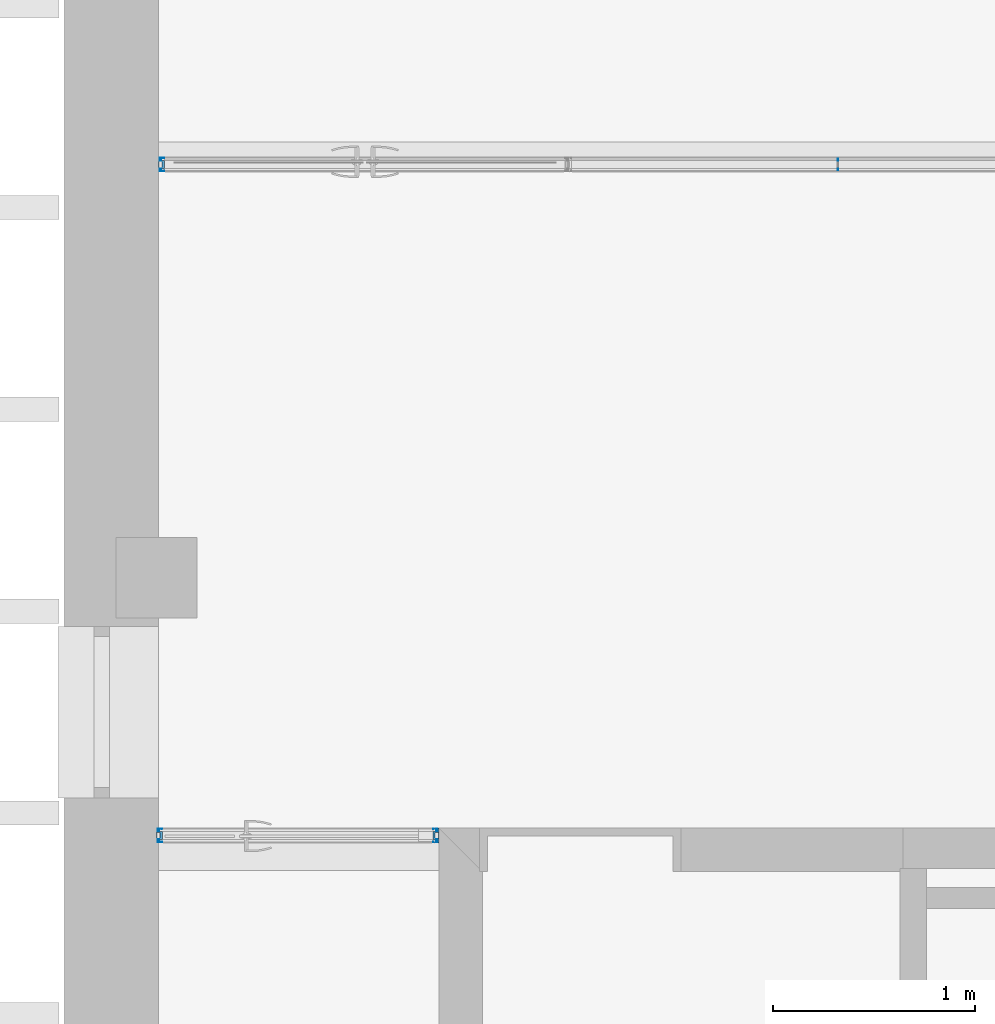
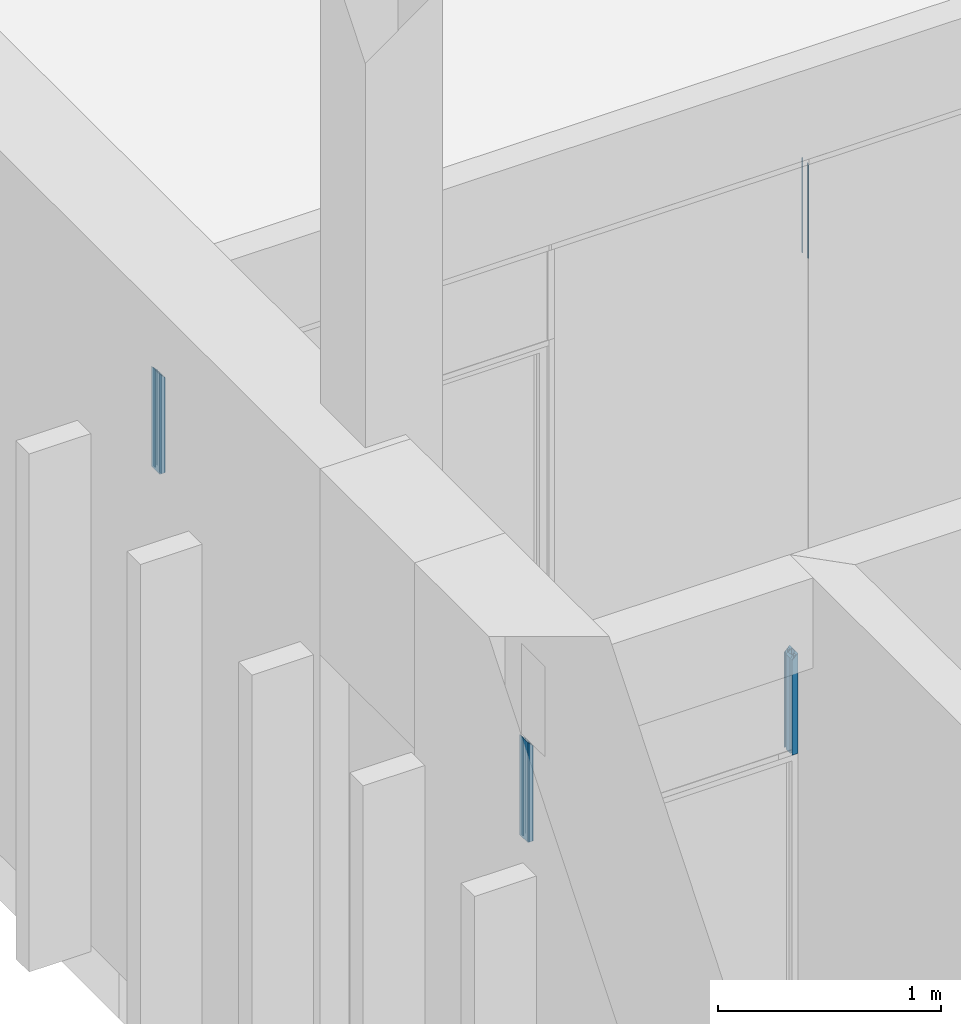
# One storey, part 30 of 89: 7 building element parts, 6 elements without a shape of their own.
"""IFC2X3 building model written with IfcOpenShell, lengths in millimetres."""

from ifc_helpers import new_model, entity, si_unit, converted_unit, derived_unit, money_unit, direction, frame, origin_with_axes, place, context, subcontext, project, spatial, faceted_brep, source, transform, mapped, material, type_object, element, aggregate, save


model = new_model("IFC2X3")

# Units and contexts
model_context = context("Model", 3, precision=0.01, world=origin_with_axes(), true_north=direction((0.0, 1.0)))
body_context = subcontext(model_context, "Body", "Model", "MODEL_VIEW")
ifc_project = project(units=[si_unit("LENGTHUNIT", "METRE", prefix="MILLI"), si_unit("AREAUNIT", "SQUARE_METRE"), si_unit("VOLUMEUNIT", "CUBIC_METRE"), converted_unit("PLANEANGLEUNIT", "DEGREE", entity("IfcPlaneAngleMeasure", 0.0174532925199), si_unit("PLANEANGLEUNIT", "RADIAN"), dimensions=[0, 0, 0, 0, 0, 0, 0]), si_unit("SOLIDANGLEUNIT", "STERADIAN"), money_unit("EUR"), converted_unit("TIMEUNIT", "Year", entity("IfcTimeMeasure", 31556926.0), si_unit("TIMEUNIT", "SECOND"), dimensions=[0, 0, 1, 0, 0, 0, 0]), si_unit("MASSUNIT", "GRAM", prefix="KILO"), si_unit("THERMODYNAMICTEMPERATUREUNIT", "DEGREE_CELSIUS"), si_unit("LUMINOUSINTENSITYUNIT", "LUMEN"), si_unit("ENERGYUNIT", "JOULE", prefix="MEGA"), derived_unit("THERMALCONDUCTANCEUNIT", [(si_unit("POWERUNIT", "WATT"), 1), (si_unit("LENGTHUNIT", "METRE"), -1), (si_unit("THERMODYNAMICTEMPERATUREUNIT", "KELVIN"), -1)]), derived_unit("SPECIFICHEATCAPACITYUNIT", [(si_unit("ENERGYUNIT", "JOULE"), 1), (si_unit("MASSUNIT", "GRAM", prefix="KILO"), -1), (si_unit("THERMODYNAMICTEMPERATUREUNIT", "KELVIN"), -1)]), derived_unit("MASSDENSITYUNIT", [(si_unit("MASSUNIT", "GRAM", prefix="KILO"), 1), (si_unit("VOLUMEUNIT", "CUBIC_METRE"), -1)])], contexts=[model_context])

# Site, building, storey
site_placement = place(None, origin_with_axes())
site = spatial("IfcSite", under=ifc_project, at=site_placement, Name="Puškini 31, Narva", CompositionType="ELEMENT")
building_placement = place(site_placement, origin_with_axes())
building = spatial("IfcBuilding", under=site, at=building_placement, Name="Narva Riigigümnaasium", CompositionType="ELEMENT")
storey_placement = place(building_placement, frame((0.0, 0.0, -3300.0), z_axis=(0.0, 0.0, 1.0), x_axis=(1.0, 0.0, 0.0)))
storey = spatial("IfcBuildingStorey", under=building, at=storey_placement, Name="1.korrus -3.3", CompositionType="ELEMENT", Elevation=-3300.0)

# Curtain wall, members, building element parts
curtain_wall_type = type_object("IfcCurtainWallType", Name="Curtain Wall Type", PredefinedType="NOTDEFINED")
curtain_wall_1_placement = place(storey_placement, frame((40014.000008, 243997.000057, -9.155864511e-06), z_axis=(0.0, 0.0, 1.0), x_axis=(1.0, 0.0, 0.0)))
curtain_wall_1 = element("IfcCurtainWall", 1, at=curtain_wall_1_placement, inside=storey, type_object=curtain_wall_type, Name="G-SKLF-09")
member_type_1 = type_object("IfcMemberType", Name="3 x 19", PredefinedType="MULLION")
member_1_placement = place(curtain_wall_1_placement, frame((763.999992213, 0.0, 2400.00000716), z_axis=(0.0, 0.0, 1.0), x_axis=(-1.0, 0.0, 0.0)))
member_1 = element("IfcMember", 2, at=member_1_placement, type_object=member_type_1, Name="G-SKLF-09-raam", ObjectType="MULLION")
ifc_material_1 = material(Name="Klaas")
shared_shape_1 = source(origin_with_axes(), body_context, "Body", "Brep", [
    faceted_brep([(1.4999861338, 20.0064497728, 0.0), (1.4999861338, 20.0064497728, 519.999980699), (-1.5000138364, 20.0064497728, 519.999980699), (-1.5000138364, 20.0064497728, 0.0), (1.4999861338, 29.0064496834, 0.0), (1.4999861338, 29.0064496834, 519.999980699), (-1.5000138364, 29.0064496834, 519.999980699), (-1.5000138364, 29.0064496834, 0.0)], [[[0, 1, 2, 3]], [[4, 5, 1, 0]], [[1, 5, 6, 2]], [[3, 2, 6, 7]], [[0, 3, 7, 4]], [[7, 6, 5, 4]]]),
    faceted_brep([(1.4999861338, -19.993550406, 0.0), (1.4999861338, -19.993550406, 519.999980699), (1.4999861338, -28.9935503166, 519.999980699), (1.4999861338, -28.9935503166, 0.0), (-1.5000138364, -19.993550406, 0.0), (-1.5000138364, -19.993550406, 519.999980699), (-1.5000138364, -28.9935503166, 519.999980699), (-1.5000138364, -28.9935503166, 0.0)], [[[0, 1, 2, 3]], [[4, 5, 1, 0]], [[1, 5, 6, 2]], [[3, 2, 6, 7]], [[0, 3, 7, 4]], [[7, 6, 5, 4]]]),
])
building_element_part_1_placement = place(member_1_placement, origin_with_axes())
building_element_part_1 = element("IfcBuildingElementPart", 3, at=building_element_part_1_placement, material=ifc_material_1, Name="Klaas", context=body_context, shape_type="MappedRepresentation", body=[
    mapped(shared_shape_1, transform((0.0, 0.0, 0.0), x_axis=(-1.0, 0.0, 0.0), y_axis=(0.0, -1.0, 0.0), z_axis=(0.0, 0.0, 1.0))),
])
aggregate(member_1, [building_element_part_1])
member_type_2 = type_object("IfcMemberType", Name="30 x 37", PredefinedType="MULLION")
member_2_placement = place(curtain_wall_1_placement, frame((-2604.00000779, 0.0, 2400.00000716), z_axis=(0.0, 0.0, 1.0), x_axis=(-1.0, 0.0, 0.0)))
member_2 = element("IfcMember", 4, at=member_2_placement, type_object=member_type_2, Name="G-SKLF-09-raam", ObjectType="MULLION")
aggregate(curtain_wall_1, [member_2, member_1])
ifc_material_2 = material(Name="Klaasvill")
shared_shape_2 = source(origin_with_axes(), body_context, "Body", "Brep", [
    faceted_brep([(7.49999990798, 20.000000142, 0.0), (13.8499999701, 20.000000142, 0.0), (13.8499999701, 20.000000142, 536.15000003), (7.49999990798, 20.000000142, 542.500000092), (7.49999990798, 34.0161444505, 0.0), (13.8499999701, 34.0161444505, 0.0), (13.8499999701, 34.0161444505, 536.15000003), (7.49999990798, 34.0161444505, 542.500000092)], [[[0, 1, 2, 3]], [[0, 4, 5, 1]], [[1, 5, 6, 2]], [[3, 2, 6, 7]], [[4, 0, 3, 7]], [[5, 4, 7, 6]]]),
    faceted_brep([(24.987414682, 34.0161444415, 0.0), (25.004489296, 32.0307503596, 0.0), (25.004489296, 32.0307503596, 524.995510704), (24.987414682, 34.0161444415, 525.012585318), (28.5126239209, 34.0161444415, 0.0), (28.7655837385, 33.0385325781, 0.0), (28.4955493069, 32.0307503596, 0.0), (27.75780152, 31.2930025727, 0.0), (26.7500193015, 31.0229681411, 0.0), (25.742237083, 31.2930025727, 0.0), (25.742237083, 31.2930025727, 524.257762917), (26.7500193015, 31.0229681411, 523.249980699), (27.75780152, 31.2930025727, 522.24219848), (28.4955493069, 32.0307503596, 521.504450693), (28.7655837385, 33.0385325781, 521.234416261), (28.5126239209, 34.0161444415, 521.487376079)], [[[0, 1, 2, 3]], [[0, 4, 5, 6, 7, 8, 9, 1]], [[1, 9, 10, 2]], [[3, 2, 10, 11, 12, 13, 14, 15]], [[4, 0, 3, 15]], [[5, 4, 15, 14]], [[6, 5, 14, 13]], [[7, 6, 13, 12]], [[8, 7, 12, 11]], [[9, 8, 11, 10]]]),
    faceted_brep([(7.49999990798, -19.9999997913, 0.0), (7.49999990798, -34.0161445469, 0.0), (7.49999990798, -34.0161445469, 542.500000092), (7.49999990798, -19.9999997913, 542.500000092), (13.8499999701, -19.9999997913, 0.0), (13.8499999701, -34.0161445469, 0.0), (13.8499999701, -34.0161445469, 536.15000003), (13.8499999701, -19.9999997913, 536.15000003)], [[[0, 1, 2, 3]], [[0, 4, 5, 1]], [[1, 5, 6, 2]], [[3, 2, 6, 7]], [[4, 0, 3, 7]], [[5, 4, 7, 6]]]),
    faceted_brep([(25.004489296, -32.0307503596, 0.0), (24.987414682, -34.0161444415, 0.0), (24.987414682, -34.0161444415, 525.012585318), (25.004489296, -32.0307503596, 524.995510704), (25.742237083, -31.2930025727, 0.0), (26.7500193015, -31.0229681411, 0.0), (27.75780152, -31.2930025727, 0.0), (28.4955493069, -32.0307503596, 0.0), (28.7655837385, -33.0385325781, 0.0), (28.5126239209, -34.0161444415, 0.0), (28.5126239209, -34.0161444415, 521.487376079), (28.7655837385, -33.0385325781, 521.234416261), (28.4955493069, -32.0307503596, 521.504450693), (27.75780152, -31.2930025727, 522.24219848), (26.7500193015, -31.0229681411, 523.249980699), (25.742237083, -31.2930025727, 524.257762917)], [[[0, 1, 2, 3]], [[0, 4, 5, 6, 7, 8, 9, 1]], [[1, 9, 10, 2]], [[3, 2, 10, 11, 12, 13, 14, 15]], [[4, 0, 3, 15]], [[5, 4, 15, 14]], [[6, 5, 14, 13]], [[7, 6, 13, 12]], [[8, 7, 12, 11]], [[9, 8, 11, 10]]]),
])
building_element_part_2_placement = place(member_2_placement, origin_with_axes())
building_element_part_2 = element("IfcBuildingElementPart", 5, at=building_element_part_2_placement, material=ifc_material_2, Name="Klaasvill", context=body_context, shape_type="MappedRepresentation", body=[
    mapped(shared_shape_2, transform((0.0, 0.0, 0.0), x_axis=(-1.0, 0.0, 0.0), y_axis=(0.0, -1.0, 0.0), z_axis=(0.0, 0.0, 1.0))),
])
ifc_material_3 = material(Name="Teras RAL7012")
shared_shape_3 = source(origin_with_axes(), body_context, "Body", "Brep", [
    faceted_brep([(0.0, -17.0000000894, 0.0), (29.5999996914, -17.0000000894, 0.0), (29.5999996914, -17.0000000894, 520.400000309), (0.0, -17.0000000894, 550.0), (0.0, 17.0000000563, 0.0), (29.5999996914, 17.0000000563, 0.0), (1.9999999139, 15.0000001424, 0.0), (1.9999999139, -15.0000001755, 0.0), (18.7999996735, -15.0000001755, 0.0), (18.7999996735, 15.0000001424, 0.0), (29.5999996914, 17.0000000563, 520.400000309), (0.0, 17.0000000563, 550.0), (1.9999999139, 15.0000001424, 548.000000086), (18.7999996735, 15.0000001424, 531.200000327), (18.7999996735, -15.0000001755, 531.200000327), (1.9999999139, -15.0000001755, 548.000000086)], [[[0, 1, 2, 3]], [[0, 4, 5, 1], [6, 7, 8, 9]], [[1, 5, 10, 2]], [[3, 2, 10, 11], [12, 13, 14, 15]], [[4, 0, 3, 11]], [[5, 4, 11, 10]], [[7, 6, 12, 15]], [[8, 7, 15, 14]], [[9, 8, 14, 13]], [[6, 9, 13, 12]]]),
    faceted_brep([(0.0, 17.0, 0.0), (29.5999996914, 17.0000000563, 0.0), (29.5999996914, 17.0000000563, 520.400000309), (0.0, 17.0, 550.0), (0.0, 37.0, 0.0), (30.0000193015, 37.0, 0.0), (30.0000193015, 34.0161444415, 0.0), (28.5126239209, 34.0161444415, 0.0), (24.987414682, 34.0161444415, 0.0), (13.8499999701, 34.0161444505, 0.0), (7.49999999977, 34.0161444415, 0.0), (7.49999999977, 20.0, 0.0), (13.8499999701, 20.000000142, 0.0), (30.0000193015, 20.0, 0.0), (30.0000193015, 17.0, 0.0), (30.0000193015, 17.0, 519.999980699), (30.0000193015, 20.0, 519.999980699), (13.8499999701, 20.000000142, 536.15000003), (7.49999999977, 20.0, 542.5), (7.49999999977, 34.0161444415, 542.5), (13.8499999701, 34.0161444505, 536.15000003), (24.987414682, 34.0161444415, 525.012585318), (28.5126239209, 34.0161444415, 521.487376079), (30.0000193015, 34.0161444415, 519.999980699), (30.0000193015, 37.0, 519.999980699), (0.0, 37.0, 550.0)], [[[0, 1, 2, 3]], [[0, 4, 5, 6, 7, 8, 9, 10, 11, 12, 13, 14, 1]], [[1, 14, 15, 2]], [[3, 2, 15, 16, 17, 18, 19, 20, 21, 22, 23, 24, 25]], [[4, 0, 3, 25]], [[5, 4, 25, 24]], [[6, 5, 24, 23]], [[7, 6, 23, 22]], [[8, 7, 22, 21]], [[9, 8, 21, 20]], [[10, 9, 20, 19]], [[11, 10, 19, 18]], [[12, 11, 18, 17]], [[13, 12, 17, 16]], [[14, 13, 16, 15]]]),
    faceted_brep([(0.0, -17.0, 0.0), (0.0, -37.0, 0.0), (0.0, -37.0, 550.0), (0.0, -17.0, 550.0), (29.5999996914, -17.0000000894, 0.0), (30.0000193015, -17.0, 0.0), (30.0000193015, -20.0, 0.0), (13.8499999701, -19.9999997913, 0.0), (7.49999999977, -20.0, 0.0), (7.49999999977, -34.0161444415, 0.0), (13.8499999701, -34.0161445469, 0.0), (24.987414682, -34.0161444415, 0.0), (28.5126239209, -34.0161444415, 0.0), (30.0000193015, -34.0161444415, 0.0), (30.0000193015, -37.0, 0.0), (30.0000193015, -37.0, 519.999980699), (30.0000193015, -34.0161444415, 519.999980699), (28.5126239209, -34.0161444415, 521.487376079), (24.987414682, -34.0161444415, 525.012585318), (13.8499999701, -34.0161445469, 536.15000003), (7.49999999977, -34.0161444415, 542.5), (7.49999999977, -20.0, 542.5), (13.8499999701, -19.9999997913, 536.15000003), (30.0000193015, -20.0, 519.999980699), (30.0000193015, -17.0, 519.999980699), (29.5999996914, -17.0000000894, 520.400000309)], [[[0, 1, 2, 3]], [[0, 4, 5, 6, 7, 8, 9, 10, 11, 12, 13, 14, 1]], [[1, 14, 15, 2]], [[3, 2, 15, 16, 17, 18, 19, 20, 21, 22, 23, 24, 25]], [[4, 0, 3, 25]], [[5, 4, 25, 24]], [[6, 5, 24, 23]], [[7, 6, 23, 22]], [[8, 7, 22, 21]], [[9, 8, 21, 20]], [[10, 9, 20, 19]], [[11, 10, 19, 18]], [[12, 11, 18, 17]], [[13, 12, 17, 16]], [[14, 13, 16, 15]]]),
])
building_element_part_3_placement = place(member_2_placement, origin_with_axes())
building_element_part_3 = element("IfcBuildingElementPart", 6, at=building_element_part_3_placement, material=ifc_material_3, Name="Teras RAL7012", context=body_context, shape_type="MappedRepresentation", body=[
    mapped(shared_shape_3, transform((0.0, 0.0, 0.0), x_axis=(-1.0, 0.0, 0.0), y_axis=(0.0, -1.0, 0.0), z_axis=(0.0, 0.0, 1.0))),
])
aggregate(member_2, [building_element_part_2, building_element_part_3])

curtain_wall_2_placement = place(storey_placement, frame((38300.0000003, 240678.000001, -3.3467437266e-05), z_axis=(0.0, 0.0, 1.0), x_axis=(1.0, 0.0, 0.0)))
curtain_wall_2 = element("IfcCurtainWall", 7, at=curtain_wall_2_placement, inside=storey, type_object=curtain_wall_type, Name="G-SKLF-56")
member_type_3 = type_object("IfcMemberType", Name="Boundary Frame 30 x 42", PredefinedType="MULLION")
member_3_placement = place(curtain_wall_2_placement, frame((500.0, 0.0, 2400.00003347), z_axis=(0.0, 0.0, 1.0), x_axis=(-1.0, 0.0, 0.0)))
member_3 = element("IfcMember", 8, at=member_3_placement, type_object=member_type_3, Name="SKLF-22-raam", ObjectType="MULLION")
shared_shape_4 = source(origin_with_axes(), body_context, "Body", "Brep", [
    faceted_brep([(-7.49999990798, 15.000000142, 0.0), (-7.49999990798, 15.000000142, 542.500000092), (-13.8499999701, 15.000000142, 536.15000003), (-13.8499999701, 15.000000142, 0.0), (-7.49999990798, 29.0161444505, 0.0), (-7.49999990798, 29.0161444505, 542.500000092), (-13.8499999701, 29.0161444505, 536.15000003), (-13.8499999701, 29.0161444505, 0.0)], [[[0, 1, 2, 3]], [[4, 5, 1, 0]], [[1, 5, 6, 2]], [[3, 2, 6, 7]], [[0, 3, 7, 4]], [[7, 6, 5, 4]]]),
    faceted_brep([(-24.987414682, 29.0161444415, 0.0), (-24.987414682, 29.0161444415, 525.012585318), (-25.004489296, 27.0307503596, 524.995510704), (-25.004489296, 27.0307503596, 0.0), (-28.5126239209, 29.0161444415, 0.0), (-28.5126239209, 29.0161444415, 521.487376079), (-28.7655837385, 28.0385325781, 521.234416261), (-28.4955493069, 27.0307503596, 521.504450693), (-27.75780152, 26.2930025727, 522.24219848), (-26.7500193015, 26.0229681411, 523.249980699), (-25.742237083, 26.2930025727, 524.257762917), (-25.742237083, 26.2930025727, 0.0), (-26.7500193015, 26.0229681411, 0.0), (-27.75780152, 26.2930025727, 0.0), (-28.4955493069, 27.0307503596, 0.0), (-28.7655837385, 28.0385325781, 0.0)], [[[0, 1, 2, 3]], [[4, 5, 1, 0]], [[1, 5, 6, 7, 8, 9, 10, 2]], [[3, 2, 10, 11]], [[0, 3, 11, 12, 13, 14, 15, 4]], [[15, 6, 5, 4]], [[14, 7, 6, 15]], [[13, 8, 7, 14]], [[12, 9, 8, 13]], [[11, 10, 9, 12]]]),
    faceted_brep([(-7.49999990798, -24.9999997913, 0.0), (-7.49999990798, -24.9999997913, 542.500000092), (-7.49999990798, -39.0161445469, 542.500000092), (-7.49999990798, -39.0161445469, 0.0), (-13.8499999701, -24.9999997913, 0.0), (-13.8499999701, -24.9999997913, 536.15000003), (-13.8499999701, -39.0161445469, 536.15000003), (-13.8499999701, -39.0161445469, 0.0)], [[[0, 1, 2, 3]], [[4, 5, 1, 0]], [[1, 5, 6, 2]], [[3, 2, 6, 7]], [[0, 3, 7, 4]], [[7, 6, 5, 4]]]),
    faceted_brep([(-25.004489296, -37.0307503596, 0.0), (-25.004489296, -37.0307503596, 524.995510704), (-24.987414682, -39.0161444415, 525.012585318), (-24.987414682, -39.0161444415, 0.0), (-25.742237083, -36.2930025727, 0.0), (-25.742237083, -36.2930025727, 524.257762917), (-26.7500193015, -36.0229681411, 523.249980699), (-27.75780152, -36.2930025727, 522.24219848), (-28.4955493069, -37.0307503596, 521.504450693), (-28.7655837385, -38.0385325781, 521.234416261), (-28.5126239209, -39.0161444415, 521.487376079), (-28.5126239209, -39.0161444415, 0.0), (-28.7655837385, -38.0385325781, 0.0), (-28.4955493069, -37.0307503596, 0.0), (-27.75780152, -36.2930025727, 0.0), (-26.7500193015, -36.0229681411, 0.0)], [[[0, 1, 2, 3]], [[4, 5, 1, 0]], [[1, 5, 6, 7, 8, 9, 10, 2]], [[3, 2, 10, 11]], [[0, 3, 11, 12, 13, 14, 15, 4]], [[15, 6, 5, 4]], [[14, 7, 6, 15]], [[13, 8, 7, 14]], [[12, 9, 8, 13]], [[11, 10, 9, 12]]]),
])
building_element_part_4_placement = place(member_3_placement, origin_with_axes())
building_element_part_4 = element("IfcBuildingElementPart", 9, at=building_element_part_4_placement, material=ifc_material_2, Name="Klaasvill", context=body_context, shape_type="MappedRepresentation", body=[
    mapped(shared_shape_4, transform((0.0, 0.0, 0.0), x_axis=(-1.0, 0.0, 0.0), y_axis=(0.0, -1.0, 0.0), z_axis=(0.0, 0.0, 1.0))),
])
shared_shape_5 = source(origin_with_axes(), body_context, "Body", "Brep", [
    faceted_brep([(0.0, -22.0000000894, 0.0), (0.0, -22.0000000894, 550.0), (-29.5999996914, -22.0000000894, 520.400000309), (-29.5999996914, -22.0000000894, 0.0), (0.0, 12.0000000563, 0.0), (0.0, 12.0000000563, 550.0), (-29.5999996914, 12.0000000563, 520.400000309), (-1.9999999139, 10.0000001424, 548.000000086), (-1.9999999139, -20.0000001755, 548.000000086), (-18.7999996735, -20.0000001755, 531.200000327), (-18.7999996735, 10.0000001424, 531.200000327), (-29.5999996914, 12.0000000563, 0.0), (-1.9999999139, 10.0000001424, 0.0), (-18.7999996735, 10.0000001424, 0.0), (-18.7999996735, -20.0000001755, 0.0), (-1.9999999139, -20.0000001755, 0.0)], [[[0, 1, 2, 3]], [[4, 5, 1, 0]], [[1, 5, 6, 2], [7, 8, 9, 10]], [[3, 2, 6, 11]], [[0, 3, 11, 4], [12, 13, 14, 15]], [[11, 6, 5, 4]], [[15, 8, 7, 12]], [[14, 9, 8, 15]], [[13, 10, 9, 14]], [[12, 7, 10, 13]]]),
    faceted_brep([(0.0, 12.0, 0.0), (0.0, 12.0, 550.0), (-29.5999996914, 12.0000000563, 520.400000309), (-29.5999996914, 12.0000000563, 0.0), (0.0, 32.0, 0.0), (0.0, 32.0, 550.0), (-30.0000193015, 32.0, 519.999980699), (-30.0000193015, 29.0161444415, 519.999980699), (-28.5126239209, 29.0161444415, 521.487376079), (-24.987414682, 29.0161444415, 525.012585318), (-13.8499999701, 29.0161444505, 536.15000003), (-7.49999999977, 29.0161444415, 542.5), (-7.49999999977, 15.0, 542.5), (-13.8499999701, 15.000000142, 536.15000003), (-30.0000193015, 15.0, 519.999980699), (-30.0000193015, 12.0, 519.999980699), (-30.0000193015, 12.0, 0.0), (-30.0000193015, 15.0, 0.0), (-13.8499999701, 15.000000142, 0.0), (-7.49999999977, 15.0, 0.0), (-7.49999999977, 29.0161444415, 0.0), (-13.8499999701, 29.0161444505, 0.0), (-24.987414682, 29.0161444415, 0.0), (-28.5126239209, 29.0161444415, 0.0), (-30.0000193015, 29.0161444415, 0.0), (-30.0000193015, 32.0, 0.0)], [[[0, 1, 2, 3]], [[4, 5, 1, 0]], [[1, 5, 6, 7, 8, 9, 10, 11, 12, 13, 14, 15, 2]], [[3, 2, 15, 16]], [[0, 3, 16, 17, 18, 19, 20, 21, 22, 23, 24, 25, 4]], [[25, 6, 5, 4]], [[24, 7, 6, 25]], [[23, 8, 7, 24]], [[22, 9, 8, 23]], [[21, 10, 9, 22]], [[20, 11, 10, 21]], [[19, 12, 11, 20]], [[18, 13, 12, 19]], [[17, 14, 13, 18]], [[16, 15, 14, 17]]]),
    faceted_brep([(0.0, -22.0, 0.0), (0.0, -22.0, 550.0), (0.0, -42.0, 550.0), (0.0, -42.0, 0.0), (-29.5999996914, -22.0000000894, 0.0), (-29.5999996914, -22.0000000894, 520.400000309), (-30.0000193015, -22.0, 519.999980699), (-30.0000193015, -25.0, 519.999980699), (-13.8499999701, -24.9999997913, 536.15000003), (-7.49999999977, -25.0, 542.5), (-7.49999999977, -39.0161444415, 542.5), (-13.8499999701, -39.0161445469, 536.15000003), (-24.987414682, -39.0161444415, 525.012585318), (-28.5126239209, -39.0161444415, 521.487376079), (-30.0000193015, -39.0161444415, 519.999980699), (-30.0000193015, -42.0, 519.999980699), (-30.0000193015, -42.0, 0.0), (-30.0000193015, -39.0161444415, 0.0), (-28.5126239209, -39.0161444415, 0.0), (-24.987414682, -39.0161444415, 0.0), (-13.8499999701, -39.0161445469, 0.0), (-7.49999999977, -39.0161444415, 0.0), (-7.49999999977, -25.0, 0.0), (-13.8499999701, -24.9999997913, 0.0), (-30.0000193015, -25.0, 0.0), (-30.0000193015, -22.0, 0.0)], [[[0, 1, 2, 3]], [[4, 5, 1, 0]], [[1, 5, 6, 7, 8, 9, 10, 11, 12, 13, 14, 15, 2]], [[3, 2, 15, 16]], [[0, 3, 16, 17, 18, 19, 20, 21, 22, 23, 24, 25, 4]], [[25, 6, 5, 4]], [[24, 7, 6, 25]], [[23, 8, 7, 24]], [[22, 9, 8, 23]], [[21, 10, 9, 22]], [[20, 11, 10, 21]], [[19, 12, 11, 20]], [[18, 13, 12, 19]], [[17, 14, 13, 18]], [[16, 15, 14, 17]]]),
])
building_element_part_5_placement = place(member_3_placement, origin_with_axes())
building_element_part_5 = element("IfcBuildingElementPart", 10, at=building_element_part_5_placement, material=ifc_material_3, Name="Teras RAL7012", context=body_context, shape_type="MappedRepresentation", body=[
    mapped(shared_shape_5, transform((0.0, 0.0, 0.0), x_axis=(-1.0, 0.0, 0.0), y_axis=(0.0, -1.0, 0.0), z_axis=(0.0, 0.0, 1.0))),
])
aggregate(member_3, [building_element_part_4, building_element_part_5])
member_4_placement = place(curtain_wall_2_placement, frame((-900.0, 0.0, 2400.00003347), z_axis=(0.0, 0.0, 1.0), x_axis=(-1.0, 0.0, 0.0)))
member_4 = element("IfcMember", 11, at=member_4_placement, type_object=member_type_3, Name="SKLF-25-raam", ObjectType="MULLION")
aggregate(curtain_wall_2, [member_3, member_4])
shared_shape_6 = source(origin_with_axes(), body_context, "Body", "Brep", [
    faceted_brep([(7.49999990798, 15.000000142, 0.0), (13.8499999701, 15.000000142, 0.0), (13.8499999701, 15.000000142, 536.15000003), (7.49999990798, 15.000000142, 542.500000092), (7.49999990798, 29.0161444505, 0.0), (13.8499999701, 29.0161444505, 0.0), (13.8499999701, 29.0161444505, 536.15000003), (7.49999990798, 29.0161444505, 542.500000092)], [[[0, 1, 2, 3]], [[0, 4, 5, 1]], [[1, 5, 6, 2]], [[3, 2, 6, 7]], [[4, 0, 3, 7]], [[5, 4, 7, 6]]]),
    faceted_brep([(24.987414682, 29.0161444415, 0.0), (25.004489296, 27.0307503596, 0.0), (25.004489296, 27.0307503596, 524.995510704), (24.987414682, 29.0161444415, 525.012585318), (28.5126239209, 29.0161444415, 0.0), (28.7655837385, 28.0385325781, 0.0), (28.4955493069, 27.0307503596, 0.0), (27.75780152, 26.2930025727, 0.0), (26.7500193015, 26.0229681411, 0.0), (25.742237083, 26.2930025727, 0.0), (25.742237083, 26.2930025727, 524.257762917), (26.7500193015, 26.0229681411, 523.249980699), (27.75780152, 26.2930025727, 522.24219848), (28.4955493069, 27.0307503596, 521.504450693), (28.7655837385, 28.0385325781, 521.234416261), (28.5126239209, 29.0161444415, 521.487376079)], [[[0, 1, 2, 3]], [[0, 4, 5, 6, 7, 8, 9, 1]], [[1, 9, 10, 2]], [[3, 2, 10, 11, 12, 13, 14, 15]], [[4, 0, 3, 15]], [[5, 4, 15, 14]], [[6, 5, 14, 13]], [[7, 6, 13, 12]], [[8, 7, 12, 11]], [[9, 8, 11, 10]]]),
    faceted_brep([(7.49999990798, -24.9999997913, 0.0), (7.49999990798, -39.0161445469, 0.0), (7.49999990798, -39.0161445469, 542.500000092), (7.49999990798, -24.9999997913, 542.500000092), (13.8499999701, -24.9999997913, 0.0), (13.8499999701, -39.0161445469, 0.0), (13.8499999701, -39.0161445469, 536.15000003), (13.8499999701, -24.9999997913, 536.15000003)], [[[0, 1, 2, 3]], [[0, 4, 5, 1]], [[1, 5, 6, 2]], [[3, 2, 6, 7]], [[4, 0, 3, 7]], [[5, 4, 7, 6]]]),
    faceted_brep([(25.004489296, -37.0307503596, 0.0), (24.987414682, -39.0161444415, 0.0), (24.987414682, -39.0161444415, 525.012585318), (25.004489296, -37.0307503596, 524.995510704), (25.742237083, -36.2930025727, 0.0), (26.7500193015, -36.0229681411, 0.0), (27.75780152, -36.2930025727, 0.0), (28.4955493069, -37.0307503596, 0.0), (28.7655837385, -38.0385325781, 0.0), (28.5126239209, -39.0161444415, 0.0), (28.5126239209, -39.0161444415, 521.487376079), (28.7655837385, -38.0385325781, 521.234416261), (28.4955493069, -37.0307503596, 521.504450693), (27.75780152, -36.2930025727, 522.24219848), (26.7500193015, -36.0229681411, 523.249980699), (25.742237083, -36.2930025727, 524.257762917)], [[[0, 1, 2, 3]], [[0, 4, 5, 6, 7, 8, 9, 1]], [[1, 9, 10, 2]], [[3, 2, 10, 11, 12, 13, 14, 15]], [[4, 0, 3, 15]], [[5, 4, 15, 14]], [[6, 5, 14, 13]], [[7, 6, 13, 12]], [[8, 7, 12, 11]], [[9, 8, 11, 10]]]),
])
building_element_part_6_placement = place(member_4_placement, origin_with_axes())
building_element_part_6 = element("IfcBuildingElementPart", 12, at=building_element_part_6_placement, material=ifc_material_2, Name="Klaasvill", context=body_context, shape_type="MappedRepresentation", body=[
    mapped(shared_shape_6, transform((0.0, 0.0, 0.0), x_axis=(-1.0, 0.0, 0.0), y_axis=(0.0, -1.0, 0.0), z_axis=(0.0, 0.0, 1.0))),
])
shared_shape_7 = source(origin_with_axes(), body_context, "Body", "Brep", [
    faceted_brep([(0.0, -22.0000000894, 0.0), (29.5999996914, -22.0000000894, 0.0), (29.5999996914, -22.0000000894, 520.400000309), (0.0, -22.0000000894, 550.0), (0.0, 12.0000000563, 0.0), (29.5999996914, 12.0000000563, 0.0), (1.9999999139, 10.0000001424, 0.0), (1.9999999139, -20.0000001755, 0.0), (18.7999996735, -20.0000001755, 0.0), (18.7999996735, 10.0000001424, 0.0), (29.5999996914, 12.0000000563, 520.400000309), (0.0, 12.0000000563, 550.0), (1.9999999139, 10.0000001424, 548.000000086), (18.7999996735, 10.0000001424, 531.200000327), (18.7999996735, -20.0000001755, 531.200000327), (1.9999999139, -20.0000001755, 548.000000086)], [[[0, 1, 2, 3]], [[0, 4, 5, 1], [6, 7, 8, 9]], [[1, 5, 10, 2]], [[3, 2, 10, 11], [12, 13, 14, 15]], [[4, 0, 3, 11]], [[5, 4, 11, 10]], [[7, 6, 12, 15]], [[8, 7, 15, 14]], [[9, 8, 14, 13]], [[6, 9, 13, 12]]]),
    faceted_brep([(0.0, 12.0, 0.0), (29.5999996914, 12.0000000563, 0.0), (29.5999996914, 12.0000000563, 520.400000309), (0.0, 12.0, 550.0), (0.0, 32.0, 0.0), (30.0000193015, 32.0, 0.0), (30.0000193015, 29.0161444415, 0.0), (28.5126239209, 29.0161444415, 0.0), (24.987414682, 29.0161444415, 0.0), (13.8499999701, 29.0161444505, 0.0), (7.49999999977, 29.0161444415, 0.0), (7.49999999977, 15.0, 0.0), (13.8499999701, 15.000000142, 0.0), (30.0000193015, 15.0, 0.0), (30.0000193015, 12.0, 0.0), (30.0000193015, 12.0, 519.999980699), (30.0000193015, 15.0, 519.999980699), (13.8499999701, 15.000000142, 536.15000003), (7.49999999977, 15.0, 542.5), (7.49999999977, 29.0161444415, 542.5), (13.8499999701, 29.0161444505, 536.15000003), (24.987414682, 29.0161444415, 525.012585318), (28.5126239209, 29.0161444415, 521.487376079), (30.0000193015, 29.0161444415, 519.999980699), (30.0000193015, 32.0, 519.999980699), (0.0, 32.0, 550.0)], [[[0, 1, 2, 3]], [[0, 4, 5, 6, 7, 8, 9, 10, 11, 12, 13, 14, 1]], [[1, 14, 15, 2]], [[3, 2, 15, 16, 17, 18, 19, 20, 21, 22, 23, 24, 25]], [[4, 0, 3, 25]], [[5, 4, 25, 24]], [[6, 5, 24, 23]], [[7, 6, 23, 22]], [[8, 7, 22, 21]], [[9, 8, 21, 20]], [[10, 9, 20, 19]], [[11, 10, 19, 18]], [[12, 11, 18, 17]], [[13, 12, 17, 16]], [[14, 13, 16, 15]]]),
    faceted_brep([(0.0, -22.0, 0.0), (0.0, -42.0, 0.0), (0.0, -42.0, 550.0), (0.0, -22.0, 550.0), (29.5999996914, -22.0000000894, 0.0), (30.0000193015, -22.0, 0.0), (30.0000193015, -25.0, 0.0), (13.8499999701, -24.9999997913, 0.0), (7.49999999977, -25.0, 0.0), (7.49999999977, -39.0161444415, 0.0), (13.8499999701, -39.0161445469, 0.0), (24.987414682, -39.0161444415, 0.0), (28.5126239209, -39.0161444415, 0.0), (30.0000193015, -39.0161444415, 0.0), (30.0000193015, -42.0, 0.0), (30.0000193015, -42.0, 519.999980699), (30.0000193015, -39.0161444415, 519.999980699), (28.5126239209, -39.0161444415, 521.487376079), (24.987414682, -39.0161444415, 525.012585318), (13.8499999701, -39.0161445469, 536.15000003), (7.49999999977, -39.0161444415, 542.5), (7.49999999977, -25.0, 542.5), (13.8499999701, -24.9999997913, 536.15000003), (30.0000193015, -25.0, 519.999980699), (30.0000193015, -22.0, 519.999980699), (29.5999996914, -22.0000000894, 520.400000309)], [[[0, 1, 2, 3]], [[0, 4, 5, 6, 7, 8, 9, 10, 11, 12, 13, 14, 1]], [[1, 14, 15, 2]], [[3, 2, 15, 16, 17, 18, 19, 20, 21, 22, 23, 24, 25]], [[4, 0, 3, 25]], [[5, 4, 25, 24]], [[6, 5, 24, 23]], [[7, 6, 23, 22]], [[8, 7, 22, 21]], [[9, 8, 21, 20]], [[10, 9, 20, 19]], [[11, 10, 19, 18]], [[12, 11, 18, 17]], [[13, 12, 17, 16]], [[14, 13, 16, 15]]]),
])
building_element_part_7_placement = place(member_4_placement, origin_with_axes())
building_element_part_7 = element("IfcBuildingElementPart", 13, at=building_element_part_7_placement, material=ifc_material_3, Name="Teras RAL7012", context=body_context, shape_type="MappedRepresentation", body=[
    mapped(shared_shape_7, transform((0.0, 0.0, 0.0), x_axis=(-1.0, 0.0, 0.0), y_axis=(0.0, -1.0, 0.0), z_axis=(0.0, 0.0, 1.0))),
])
aggregate(member_4, [building_element_part_6, building_element_part_7])

save(model, "model.ifc")
